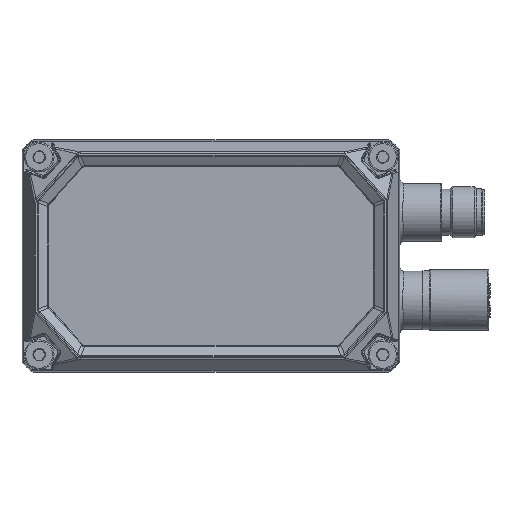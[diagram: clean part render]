
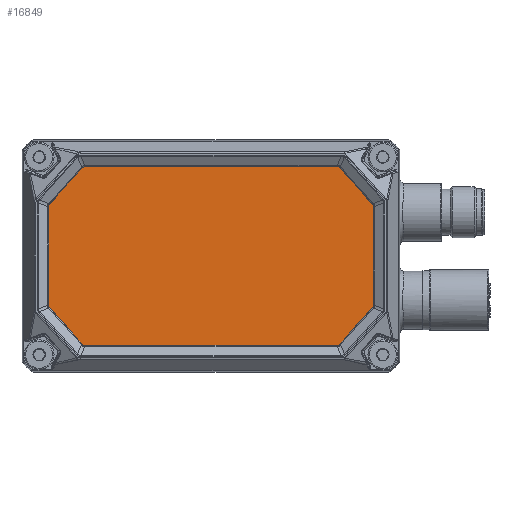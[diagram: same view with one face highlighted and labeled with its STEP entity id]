
A CAD part, top view. The second image highlights one B-rep face of the part: STEP entity #16849.
In plain terms, the highlighted planar face has unit normal (0, 0, 1).
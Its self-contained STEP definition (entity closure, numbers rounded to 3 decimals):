
#9289=LINE('',#85457,#12538);
#9290=LINE('',#85460,#12539);
#9291=LINE('',#85462,#12540);
#9292=LINE('',#85464,#12541);
#9293=LINE('',#85466,#12542);
#9294=LINE('',#85468,#12543);
#9295=LINE('',#85470,#12544);
#9296=LINE('',#85472,#12545);
#12538=VECTOR('',#65837,1.);
#12539=VECTOR('',#65838,1.);
#12540=VECTOR('',#65839,1.);
#12541=VECTOR('',#65840,1.);
#12542=VECTOR('',#65841,1.);
#12543=VECTOR('',#65842,1.);
#12544=VECTOR('',#65843,1.);
#12545=VECTOR('',#65844,1.);
#16849=ADVANCED_FACE('',(#21465),#20271,.T.);
#20271=PLANE('',#58968);
#21465=FACE_OUTER_BOUND('',#24554,.T.);
#24554=EDGE_LOOP('',(#29127,#29128,#29129,#29130,#29131,#29132,#29133,#29134));
#29127=ORIENTED_EDGE('',*,*,#48760,.T.);
#29128=ORIENTED_EDGE('',*,*,#48761,.T.);
#29129=ORIENTED_EDGE('',*,*,#48762,.F.);
#29130=ORIENTED_EDGE('',*,*,#48763,.F.);
#29131=ORIENTED_EDGE('',*,*,#48764,.F.);
#29132=ORIENTED_EDGE('',*,*,#48765,.F.);
#29133=ORIENTED_EDGE('',*,*,#48766,.T.);
#29134=ORIENTED_EDGE('',*,*,#48767,.T.);
#43895=VERTEX_POINT('',#85458);
#43896=VERTEX_POINT('',#85459);
#43897=VERTEX_POINT('',#85461);
#43898=VERTEX_POINT('',#85463);
#43899=VERTEX_POINT('',#85465);
#43900=VERTEX_POINT('',#85467);
#43901=VERTEX_POINT('',#85469);
#43902=VERTEX_POINT('',#85471);
#48760=EDGE_CURVE('',#43895,#43896,#9289,.T.);
#48761=EDGE_CURVE('',#43896,#43897,#9290,.T.);
#48762=EDGE_CURVE('',#43898,#43897,#9291,.T.);
#48763=EDGE_CURVE('',#43899,#43898,#9292,.T.);
#48764=EDGE_CURVE('',#43900,#43899,#9293,.T.);
#48765=EDGE_CURVE('',#43901,#43900,#9294,.T.);
#48766=EDGE_CURVE('',#43901,#43902,#9295,.T.);
#48767=EDGE_CURVE('',#43902,#43895,#9296,.T.);
#58968=AXIS2_PLACEMENT_3D('',#85473,#65845,#65846);
#65837=DIRECTION('',(0.669,0.743,0.));
#65838=DIRECTION('',(0.,1.,0.));
#65839=DIRECTION('',(0.669,-0.743,0.));
#65840=DIRECTION('',(1.,0.,0.));
#65841=DIRECTION('',(0.669,0.743,0.));
#65842=DIRECTION('',(0.,1.,0.));
#65843=DIRECTION('',(0.669,-0.743,0.));
#65844=DIRECTION('',(1.,0.,0.));
#65845=DIRECTION('',(0.,0.,1.));
#65846=DIRECTION('',(0.,1.,0.));
#85457=CARTESIAN_POINT('',(50.622,2.44,53.2));
#85458=CARTESIAN_POINT('',(29.696,-20.8,53.2));
#85459=CARTESIAN_POINT('',(37.8,-11.8,53.2));
#85460=CARTESIAN_POINT('',(37.8,12.46,53.2));
#85461=CARTESIAN_POINT('',(37.8,11.8,53.2));
#85462=CARTESIAN_POINT('',(30.737,19.644,53.2));
#85463=CARTESIAN_POINT('',(29.696,20.8,53.2));
#85464=CARTESIAN_POINT('',(33.558,20.8,53.2));
#85465=CARTESIAN_POINT('',(-29.696,20.8,53.2));
#85466=CARTESIAN_POINT('',(-0.687,53.018,53.2));
#85467=CARTESIAN_POINT('',(-37.8,11.8,53.2));
#85468=CARTESIAN_POINT('',(-37.8,22.184,53.2));
#85469=CARTESIAN_POINT('',(-37.8,-11.8,53.2));
#85470=CARTESIAN_POINT('',(-15.257,-36.837,53.2));
#85471=CARTESIAN_POINT('',(-29.696,-20.8,53.2));
#85472=CARTESIAN_POINT('',(39.493,-20.8,53.2));
#85473=CARTESIAN_POINT('',(39.493,12.46,53.2));
